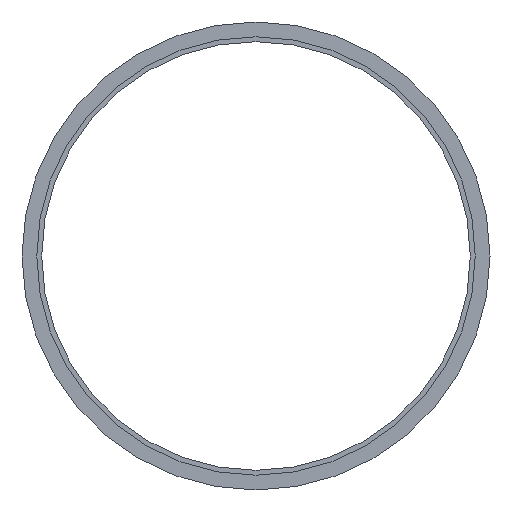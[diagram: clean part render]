
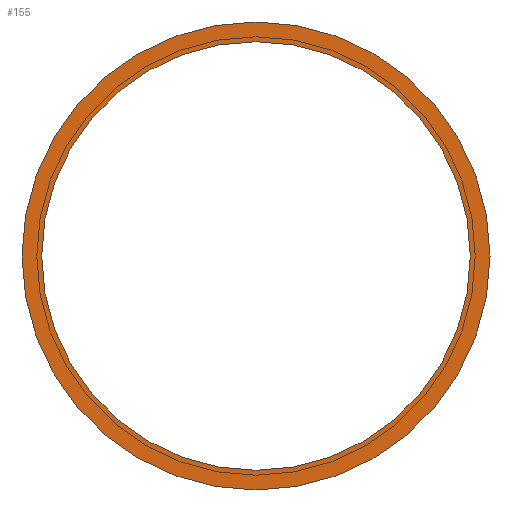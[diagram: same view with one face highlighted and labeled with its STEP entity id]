
A CAD part, left-side view. The second image highlights one B-rep face of the part: STEP entity #155.
In plain terms, the highlighted planar face has unit normal (-1, 0, 0).
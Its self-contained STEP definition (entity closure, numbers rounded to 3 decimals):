
#84=CARTESIAN_POINT('',(-33.741,91.915,87.));
#85=VERTEX_POINT('',#84);
#86=CARTESIAN_POINT('',(-33.741,91.915,0.0));
#87=DIRECTION('',(1.0,0.0,0.0));
#88=DIRECTION('',(0.0,0.0,-1.0));
#89=AXIS2_PLACEMENT_3D('',#86,#87,#88);
#90=CIRCLE('',#89,87.);
#91=EDGE_CURVE('',#85,#85,#90,.T.);
#129=CARTESIAN_POINT('',(-33.741,-3.085,0.0));
#130=VERTEX_POINT('',#129);
#131=CARTESIAN_POINT('',(-33.741,91.915,0.0));
#132=DIRECTION('',(-1.0,0.0,0.0));
#133=DIRECTION('',(0.0,-1.0,0.0));
#134=AXIS2_PLACEMENT_3D('',#131,#132,#133);
#135=CIRCLE('',#134,95.0);
#136=EDGE_CURVE('',#130,#130,#135,.T.);
#144=CARTESIAN_POINT('',(-33.741,44.415,0.0));
#145=DIRECTION('',(-1.0,0.0,0.0));
#146=DIRECTION('',(0.0,0.0,1.0));
#147=AXIS2_PLACEMENT_3D('',#144,#145,#146);
#148=PLANE('',#147);
#149=ORIENTED_EDGE('',*,*,#136,.T.);
#150=EDGE_LOOP('',(#149));
#151=FACE_OUTER_BOUND('',#150,.T.);
#152=ORIENTED_EDGE('',*,*,#91,.T.);
#153=EDGE_LOOP('',(#152));
#154=FACE_BOUND('',#153,.T.);
#155=ADVANCED_FACE('',(#151,#154),#148,.T.);
